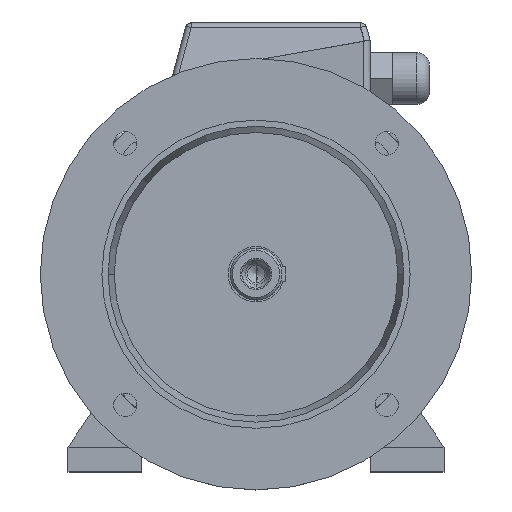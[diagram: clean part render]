
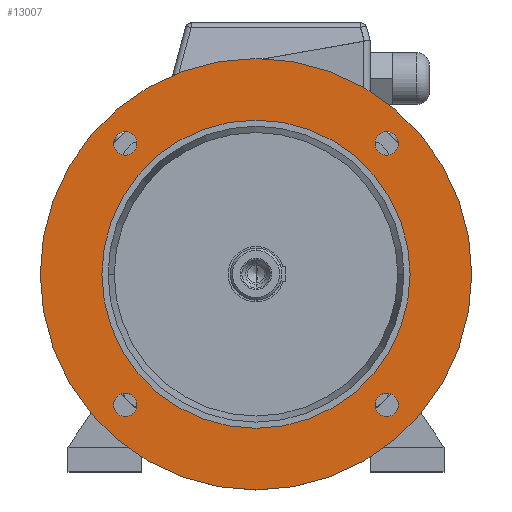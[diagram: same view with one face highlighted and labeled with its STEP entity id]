
A CAD part, top view. The second image highlights one B-rep face of the part: STEP entity #13007.
In plain terms, the highlighted planar face has unit normal (0, 0, 1).
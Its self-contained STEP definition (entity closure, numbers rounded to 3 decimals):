
#16417 = ORIENTED_EDGE ( 'NONE', *, *, #16090, .F. ) ;
#16571 = VERTEX_POINT ( 'NONE', #11468 ) ;
#287 = EDGE_CURVE ( 'NONE', #11750, #1965, #15715, .T. ) ;
#16735 = CIRCLE ( 'NONE', #16736, 9.5 ) ;
#16736 = AXIS2_PLACEMENT_3D ( 'NONE', #16737, #16738, #16739 ) ;
#16737 = CARTESIAN_POINT ( 'NONE',  ( -106.066, 106.066, 75. ) ) ;
#16738 = DIRECTION ( 'NONE',  ( 0., 0., 1. ) ) ;
#16739 = DIRECTION ( 'NONE',  ( 1., 0., 0. ) ) ;
#16960 = CARTESIAN_POINT ( 'NONE',  ( 96.566, 106.066, 75. ) ) ;
#17034 = EDGE_LOOP ( 'NONE', ( #16417, #15807 ) ) ;
#710 = ORIENTED_EDGE ( 'NONE', *, *, #287, .F. ) ;
#851 = VERTEX_POINT ( 'NONE', #16102 ) ;
#860 = CARTESIAN_POINT ( 'NONE',  ( -96.566, 106.066, 75. ) ) ;
#932 = CIRCLE ( 'NONE', #933, 125. ) ;
#933 = AXIS2_PLACEMENT_3D ( 'NONE', #939, #940, #941 ) ;
#939 = CARTESIAN_POINT ( 'NONE',  ( 0., 0., 75. ) ) ;
#940 = DIRECTION ( 'NONE',  ( 0., 0., 1. ) ) ;
#941 = DIRECTION ( 'NONE',  ( 1., 0., 0. ) ) ;
#17314 = ORIENTED_EDGE ( 'NONE', *, *, #19626, .F. ) ;
#1549 = EDGE_CURVE ( 'NONE', #6690, #16571, #16735, .T. ) ;
#17937 = EDGE_CURVE ( 'NONE', #19338, #851, #12586, .T. ) ;
#18335 = CIRCLE ( 'NONE', #18336, 9.5 ) ;
#18336 = AXIS2_PLACEMENT_3D ( 'NONE', #18337, #18338, #18339 ) ;
#1965 = VERTEX_POINT ( 'NONE', #16960 ) ;
#1966 = ORIENTED_EDGE ( 'NONE', *, *, #1549, .F. ) ;
#18337 = CARTESIAN_POINT ( 'NONE',  ( 106.066, -106.066, 75. ) ) ;
#18338 = DIRECTION ( 'NONE',  ( 0., 0., 1. ) ) ;
#18339 = DIRECTION ( 'NONE',  ( 1., 0., 0. ) ) ;
#18380 = ORIENTED_EDGE ( 'NONE', *, *, #17937, .F. ) ;
#2595 = EDGE_LOOP ( 'NONE', ( #1966, #12234 ) ) ;
#19126 = CIRCLE ( 'NONE', #19127, 175. ) ;
#19127 = AXIS2_PLACEMENT_3D ( 'NONE', #19128, #19129, #19130 ) ;
#19128 = CARTESIAN_POINT ( 'NONE',  ( 0., 0., 75. ) ) ;
#19129 = DIRECTION ( 'NONE',  ( 0., 0., 1. ) ) ;
#19130 = DIRECTION ( 'NONE',  ( 1., 0., 0. ) ) ;
#19182 = EDGE_LOOP ( 'NONE', ( #18380, #17314 ) ) ;
#2874 = ORIENTED_EDGE ( 'NONE', *, *, #15151, .F. ) ;
#19338 = VERTEX_POINT ( 'NONE', #13785 ) ;
#19483 = ORIENTED_EDGE ( 'NONE', *, *, #12008, .F. ) ;
#19626 = EDGE_CURVE ( 'NONE', #851, #19338, #14077, .T. ) ;
#3358 = CARTESIAN_POINT ( 'NONE',  ( 175., 0., 75. ) ) ;
#3494 = EDGE_CURVE ( 'NONE', #15074, #15479, #18335, .T. ) ;
#3572 = CIRCLE ( 'NONE', #3573, 175. ) ;
#3573 = AXIS2_PLACEMENT_3D ( 'NONE', #3574, #3575, #3576 ) ;
#3574 = CARTESIAN_POINT ( 'NONE',  ( 0., 0., 75. ) ) ;
#3575 = DIRECTION ( 'NONE',  ( 0., 0., 1. ) ) ;
#3576 = DIRECTION ( 'NONE',  ( 1., 0., 0. ) ) ;
#3935 = ORIENTED_EDGE ( 'NONE', *, *, #3494, .F. ) ;
#4492 = CARTESIAN_POINT ( 'NONE',  ( -175., 0., 75. ) ) ;
#4548 = EDGE_LOOP ( 'NONE', ( #3935, #2874 ) ) ;
#4832 = EDGE_CURVE ( 'NONE', #10943, #9601, #19126, .T. ) ;
#5221 = CARTESIAN_POINT ( 'NONE',  ( 115.566, 106.066, 75. ) ) ;
#5287 = ORIENTED_EDGE ( 'NONE', *, *, #4832, .T. ) ;
#5413 = CIRCLE ( 'NONE', #5414, 9.5 ) ;
#5414 = AXIS2_PLACEMENT_3D ( 'NONE', #5415, #5416, #5417 ) ;
#5415 = CARTESIAN_POINT ( 'NONE',  ( 106.066, 106.066, 75. ) ) ;
#5416 = DIRECTION ( 'NONE',  ( 0., 0., 1. ) ) ;
#5417 = DIRECTION ( 'NONE',  ( 1., 0., 0. ) ) ;
#5910 = ORIENTED_EDGE ( 'NONE', *, *, #9863, .T. ) ;
#6470 = FACE_BOUND ( 'NONE', #12843, .T. ) ;
#6471 = FACE_BOUND ( 'NONE', #19182, .T. ) ;
#6472 = FACE_BOUND ( 'NONE', #17034, .T. ) ;
#6473 = FACE_OUTER_BOUND ( 'NONE', #6515, .T. ) ;
#6474 = FACE_BOUND ( 'NONE', #4548, .T. ) ;
#6475 = FACE_BOUND ( 'NONE', #2595, .T. ) ;
#6476 = PLANE ( 'NONE',  #6477 ) ;
#6477 = AXIS2_PLACEMENT_3D ( 'NONE', #6478, #6479, #6480 ) ;
#6478 = CARTESIAN_POINT ( 'NONE',  ( 0., 175., 75. ) ) ;
#6479 = DIRECTION ( 'NONE',  ( 0., 0., -1. ) ) ;
#6480 = DIRECTION ( 'NONE',  ( -1., 0., 0. ) ) ;
#6515 = EDGE_LOOP ( 'NONE', ( #5910, #5287 ) ) ;
#6690 = VERTEX_POINT ( 'NONE', #860 ) ;
#6764 = EDGE_CURVE ( 'NONE', #15676, #15828, #932, .T. ) ;
#9601 = VERTEX_POINT ( 'NONE', #3358 ) ;
#9633 = CARTESIAN_POINT ( 'NONE',  ( 115.566, -106.066, 75. ) ) ;
#9863 = EDGE_CURVE ( 'NONE', #9601, #10943, #3572, .T. ) ;
#9902 = CIRCLE ( 'NONE', #9903, 9.5 ) ;
#9903 = AXIS2_PLACEMENT_3D ( 'NONE', #9904, #9905, #9913 ) ;
#9904 = CARTESIAN_POINT ( 'NONE',  ( 106.066, -106.066, 75. ) ) ;
#9905 = DIRECTION ( 'NONE',  ( 0., 0., 1. ) ) ;
#9913 = DIRECTION ( 'NONE',  ( 1., 0., 0. ) ) ;
#10646 = CARTESIAN_POINT ( 'NONE',  ( 96.566, -106.066, 75. ) ) ;
#10818 = CARTESIAN_POINT ( 'NONE',  ( -125., 0., 75. ) ) ;
#10861 = CIRCLE ( 'NONE', #10862, 9.5 ) ;
#10862 = AXIS2_PLACEMENT_3D ( 'NONE', #10863, #10864, #10865 ) ;
#10863 = CARTESIAN_POINT ( 'NONE',  ( -106.066, 106.066, 75. ) ) ;
#10864 = DIRECTION ( 'NONE',  ( 0., 0., 1. ) ) ;
#10865 = DIRECTION ( 'NONE',  ( 1., 0., 0. ) ) ;
#10893 = CARTESIAN_POINT ( 'NONE',  ( 125., 0., 75. ) ) ;
#10943 = VERTEX_POINT ( 'NONE', #4492 ) ;
#11085 = CIRCLE ( 'NONE', #11086, 125. ) ;
#11086 = AXIS2_PLACEMENT_3D ( 'NONE', #11087, #11088, #11089 ) ;
#11087 = CARTESIAN_POINT ( 'NONE',  ( 0., 0., 75. ) ) ;
#11088 = DIRECTION ( 'NONE',  ( 0., 0., 1. ) ) ;
#11089 = DIRECTION ( 'NONE',  ( 1., 0., 0. ) ) ;
#11468 = CARTESIAN_POINT ( 'NONE',  ( -115.566, 106.066, 75. ) ) ;
#11750 = VERTEX_POINT ( 'NONE', #5221 ) ;
#12008 = EDGE_CURVE ( 'NONE', #1965, #11750, #5413, .T. ) ;
#12234 = ORIENTED_EDGE ( 'NONE', *, *, #15767, .F. ) ;
#12586 = CIRCLE ( 'NONE', #12587, 9.5 ) ;
#12587 = AXIS2_PLACEMENT_3D ( 'NONE', #12588, #12589, #12590 ) ;
#12588 = CARTESIAN_POINT ( 'NONE',  ( -106.066, -106.066, 75. ) ) ;
#12589 = DIRECTION ( 'NONE',  ( 0., 0., 1. ) ) ;
#12590 = DIRECTION ( 'NONE',  ( 1., 0., 0. ) ) ;
#12843 = EDGE_LOOP ( 'NONE', ( #710, #19483 ) ) ;
#13007 = ADVANCED_FACE ( 'NONE', ( #6470, #6471, #6472, #6473, #6474, #6475 ), #6476, .F. ) ;
#13785 = CARTESIAN_POINT ( 'NONE',  ( -96.566, -106.066, 75. ) ) ;
#14077 = CIRCLE ( 'NONE', #14078, 9.5 ) ;
#14078 = AXIS2_PLACEMENT_3D ( 'NONE', #14079, #14080, #14081 ) ;
#14079 = CARTESIAN_POINT ( 'NONE',  ( -106.066, -106.066, 75. ) ) ;
#14080 = DIRECTION ( 'NONE',  ( 0., 0., 1. ) ) ;
#14081 = DIRECTION ( 'NONE',  ( 1., 0., 0. ) ) ;
#15074 = VERTEX_POINT ( 'NONE', #9633 ) ;
#15151 = EDGE_CURVE ( 'NONE', #15479, #15074, #9902, .T. ) ;
#15479 = VERTEX_POINT ( 'NONE', #10646 ) ;
#15676 = VERTEX_POINT ( 'NONE', #10818 ) ;
#15715 = CIRCLE ( 'NONE', #15716, 9.5 ) ;
#15716 = AXIS2_PLACEMENT_3D ( 'NONE', #15722, #15723, #15724 ) ;
#15722 = CARTESIAN_POINT ( 'NONE',  ( 106.066, 106.066, 75. ) ) ;
#15723 = DIRECTION ( 'NONE',  ( 0., 0., 1. ) ) ;
#15724 = DIRECTION ( 'NONE',  ( 1., 0., 0. ) ) ;
#15767 = EDGE_CURVE ( 'NONE', #16571, #6690, #10861, .T. ) ;
#15807 = ORIENTED_EDGE ( 'NONE', *, *, #6764, .F. ) ;
#15828 = VERTEX_POINT ( 'NONE', #10893 ) ;
#16090 = EDGE_CURVE ( 'NONE', #15828, #15676, #11085, .T. ) ;
#16102 = CARTESIAN_POINT ( 'NONE',  ( -115.566, -106.066, 75. ) ) ;
